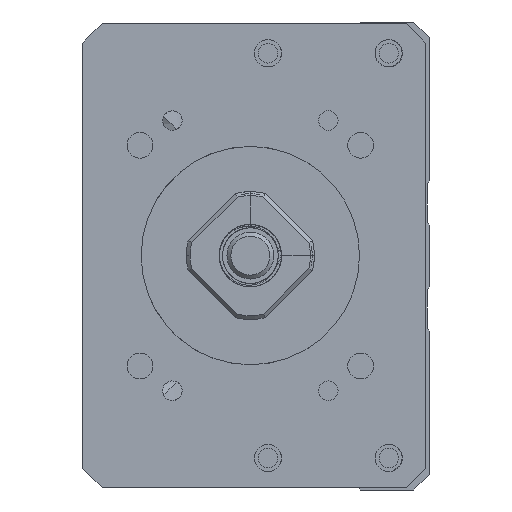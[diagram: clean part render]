
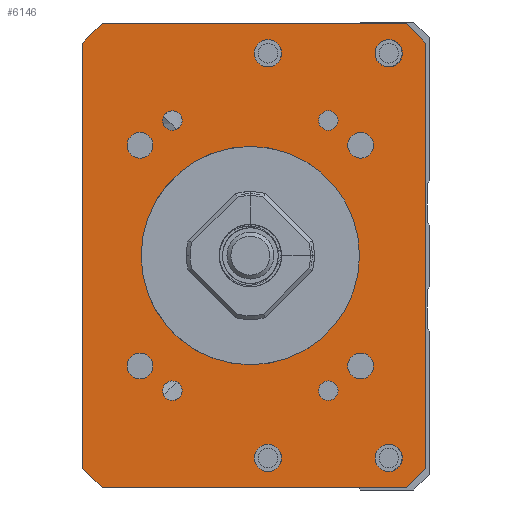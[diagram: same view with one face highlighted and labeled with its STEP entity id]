
A CAD part, left-side view. The second image highlights one B-rep face of the part: STEP entity #6146.
In plain terms, the highlighted planar face has unit normal (-1, 0, 0).
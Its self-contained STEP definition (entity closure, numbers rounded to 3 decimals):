
#3863=LINE('',#18590,#4678);
#3865=LINE('',#18614,#4680);
#3866=LINE('',#18616,#4681);
#3867=LINE('',#18618,#4682);
#3868=LINE('',#18620,#4683);
#3869=LINE('',#18622,#4684);
#3870=LINE('',#18624,#4685);
#3871=LINE('',#18626,#4686);
#4678=VECTOR('',#15570,1.);
#4680=VECTOR('',#15594,1.);
#4681=VECTOR('',#15595,1.);
#4682=VECTOR('',#15596,1.);
#4683=VECTOR('',#15597,1.);
#4684=VECTOR('',#15598,1.);
#4685=VECTOR('',#15599,1.);
#4686=VECTOR('',#15600,1.);
#5664=FACE_BOUND('',#7646,.T.);
#5665=FACE_BOUND('',#7647,.T.);
#5666=FACE_BOUND('',#7648,.T.);
#5667=FACE_BOUND('',#7649,.T.);
#5668=FACE_BOUND('',#7650,.T.);
#5669=FACE_BOUND('',#7651,.T.);
#5670=FACE_BOUND('',#7652,.T.);
#5671=FACE_BOUND('',#7653,.T.);
#5672=FACE_BOUND('',#7654,.T.);
#5673=FACE_BOUND('',#7655,.T.);
#5674=FACE_BOUND('',#7656,.T.);
#5675=FACE_BOUND('',#7657,.T.);
#5676=FACE_BOUND('',#7658,.T.);
#5677=FACE_BOUND('',#7659,.T.);
#6146=ADVANCED_FACE('',(#5664,#5665,#5666,#5667,#5668,#5669,#5670,#5671,
#5672,#5673,#5674,#5675,#5676,#5677),#6718,.F.);
#6718=PLANE('',#14172);
#7646=EDGE_LOOP('',(#8919));
#7647=EDGE_LOOP('',(#8920));
#7648=EDGE_LOOP('',(#8921));
#7649=EDGE_LOOP('',(#8922));
#7650=EDGE_LOOP('',(#8923));
#7651=EDGE_LOOP('',(#8924));
#7652=EDGE_LOOP('',(#8925));
#7653=EDGE_LOOP('',(#8926));
#7654=EDGE_LOOP('',(#8927));
#7655=EDGE_LOOP('',(#8928,#8929,#8930,#8931,#8932,#8933,#8934,#8935));
#7656=EDGE_LOOP('',(#8936));
#7657=EDGE_LOOP('',(#8937));
#7658=EDGE_LOOP('',(#8938));
#7659=EDGE_LOOP('',(#8939));
#8919=ORIENTED_EDGE('',*,*,#12435,.F.);
#8920=ORIENTED_EDGE('',*,*,#12436,.F.);
#8921=ORIENTED_EDGE('',*,*,#12437,.F.);
#8922=ORIENTED_EDGE('',*,*,#12438,.F.);
#8923=ORIENTED_EDGE('',*,*,#12439,.F.);
#8924=ORIENTED_EDGE('',*,*,#12440,.T.);
#8925=ORIENTED_EDGE('',*,*,#12441,.F.);
#8926=ORIENTED_EDGE('',*,*,#12442,.F.);
#8927=ORIENTED_EDGE('',*,*,#12443,.F.);
#8928=ORIENTED_EDGE('',*,*,#12432,.T.);
#8929=ORIENTED_EDGE('',*,*,#12444,.T.);
#8930=ORIENTED_EDGE('',*,*,#12445,.F.);
#8931=ORIENTED_EDGE('',*,*,#12446,.T.);
#8932=ORIENTED_EDGE('',*,*,#12447,.F.);
#8933=ORIENTED_EDGE('',*,*,#12448,.T.);
#8934=ORIENTED_EDGE('',*,*,#12449,.T.);
#8935=ORIENTED_EDGE('',*,*,#12450,.T.);
#8936=ORIENTED_EDGE('',*,*,#12451,.F.);
#8937=ORIENTED_EDGE('',*,*,#12452,.F.);
#8938=ORIENTED_EDGE('',*,*,#12453,.F.);
#8939=ORIENTED_EDGE('',*,*,#12412,.F.);
#11349=VERTEX_POINT('',#18529);
#11369=VERTEX_POINT('',#18589);
#11370=VERTEX_POINT('',#18591);
#11372=VERTEX_POINT('',#18597);
#11373=VERTEX_POINT('',#18599);
#11374=VERTEX_POINT('',#18601);
#11375=VERTEX_POINT('',#18603);
#11376=VERTEX_POINT('',#18605);
#11377=VERTEX_POINT('',#18607);
#11378=VERTEX_POINT('',#18609);
#11379=VERTEX_POINT('',#18611);
#11380=VERTEX_POINT('',#18613);
#11381=VERTEX_POINT('',#18615);
#11382=VERTEX_POINT('',#18617);
#11383=VERTEX_POINT('',#18619);
#11384=VERTEX_POINT('',#18621);
#11385=VERTEX_POINT('',#18623);
#11386=VERTEX_POINT('',#18625);
#11387=VERTEX_POINT('',#18628);
#11388=VERTEX_POINT('',#18630);
#11389=VERTEX_POINT('',#18632);
#12412=EDGE_CURVE('',#11349,#11349,#13639,.T.);
#12432=EDGE_CURVE('',#11370,#11369,#3863,.T.);
#12435=EDGE_CURVE('',#11372,#11372,#13648,.T.);
#12436=EDGE_CURVE('',#11373,#11373,#13649,.T.);
#12437=EDGE_CURVE('',#11374,#11374,#13650,.T.);
#12438=EDGE_CURVE('',#11375,#11375,#13651,.T.);
#12439=EDGE_CURVE('',#11376,#11376,#13652,.T.);
#12440=EDGE_CURVE('',#11377,#11377,#13653,.T.);
#12441=EDGE_CURVE('',#11378,#11378,#13654,.T.);
#12442=EDGE_CURVE('',#11379,#11379,#13655,.T.);
#12443=EDGE_CURVE('',#11380,#11380,#13656,.T.);
#12444=EDGE_CURVE('',#11369,#11381,#3865,.T.);
#12445=EDGE_CURVE('',#11382,#11381,#3866,.T.);
#12446=EDGE_CURVE('',#11382,#11383,#3867,.T.);
#12447=EDGE_CURVE('',#11384,#11383,#3868,.T.);
#12448=EDGE_CURVE('',#11384,#11385,#3869,.T.);
#12449=EDGE_CURVE('',#11385,#11386,#3870,.T.);
#12450=EDGE_CURVE('',#11386,#11370,#3871,.T.);
#12451=EDGE_CURVE('',#11387,#11387,#13657,.T.);
#12452=EDGE_CURVE('',#11388,#11388,#13658,.T.);
#12453=EDGE_CURVE('',#11389,#11389,#13659,.T.);
#13639=CIRCLE('',#14149,14.);
#13648=CIRCLE('',#14160,1.65);
#13649=CIRCLE('',#14161,1.65);
#13650=CIRCLE('',#14162,1.65);
#13651=CIRCLE('',#14163,1.65);
#13652=CIRCLE('',#14164,1.25);
#13653=CIRCLE('',#14165,1.75);
#13654=CIRCLE('',#14166,1.25);
#13655=CIRCLE('',#14167,1.75);
#13656=CIRCLE('',#14168,1.25);
#13657=CIRCLE('',#14169,1.75);
#13658=CIRCLE('',#14170,1.75);
#13659=CIRCLE('',#14171,1.25);
#14149=AXIS2_PLACEMENT_3D('',#18528,#15544,#15545);
#14160=AXIS2_PLACEMENT_3D('',#18596,#15576,#15577);
#14161=AXIS2_PLACEMENT_3D('',#18598,#15578,#15579);
#14162=AXIS2_PLACEMENT_3D('',#18600,#15580,#15581);
#14163=AXIS2_PLACEMENT_3D('',#18602,#15582,#15583);
#14164=AXIS2_PLACEMENT_3D('',#18604,#15584,#15585);
#14165=AXIS2_PLACEMENT_3D('',#18606,#15586,#15587);
#14166=AXIS2_PLACEMENT_3D('',#18608,#15588,#15589);
#14167=AXIS2_PLACEMENT_3D('',#18610,#15590,#15591);
#14168=AXIS2_PLACEMENT_3D('',#18612,#15592,#15593);
#14169=AXIS2_PLACEMENT_3D('',#18627,#15601,#15602);
#14170=AXIS2_PLACEMENT_3D('',#18629,#15603,#15604);
#14171=AXIS2_PLACEMENT_3D('',#18631,#15605,#15606);
#14172=AXIS2_PLACEMENT_3D('',#18633,#15607,#15608);
#15544=DIRECTION('',(-1.,0.,0.));
#15545=DIRECTION('',(0.,1.,0.));
#15570=DIRECTION('',(0.,0.,-1.));
#15576=DIRECTION('',(-1.,0.,0.));
#15577=DIRECTION('',(0.,0.,1.));
#15578=DIRECTION('',(-1.,0.,0.));
#15579=DIRECTION('',(0.,0.,1.));
#15580=DIRECTION('',(-1.,0.,0.));
#15581=DIRECTION('',(0.,0.,1.));
#15582=DIRECTION('',(-1.,0.,0.));
#15583=DIRECTION('',(0.,0.,1.));
#15584=DIRECTION('',(-1.,0.,0.));
#15585=DIRECTION('',(0.,1.,0.));
#15586=DIRECTION('',(1.,0.,0.));
#15587=DIRECTION('',(0.,0.,1.));
#15588=DIRECTION('',(-1.,0.,0.));
#15589=DIRECTION('',(0.,1.,0.));
#15590=DIRECTION('',(-1.,0.,0.));
#15591=DIRECTION('',(0.,0.,1.));
#15592=DIRECTION('',(-1.,0.,0.));
#15593=DIRECTION('',(0.,1.,0.));
#15594=DIRECTION('',(0.,-0.707,-0.707));
#15595=DIRECTION('',(0.,1.,0.));
#15596=DIRECTION('',(0.,-0.707,0.707));
#15597=DIRECTION('',(0.,0.,-1.));
#15598=DIRECTION('',(0.,0.707,0.707));
#15599=DIRECTION('',(0.,1.,0.));
#15600=DIRECTION('',(0.,0.707,-0.707));
#15601=DIRECTION('',(-1.,0.,0.));
#15602=DIRECTION('',(0.,0.,1.));
#15603=DIRECTION('',(-1.,0.,0.));
#15604=DIRECTION('',(0.,0.,1.));
#15605=DIRECTION('',(-1.,0.,0.));
#15606=DIRECTION('',(0.,1.,0.));
#15607=DIRECTION('',(1.,0.,0.));
#15608=DIRECTION('',(0.,1.,0.));
#18528=CARTESIAN_POINT('',(-211.,0.,-200.));
#18529=CARTESIAN_POINT('',(-211.,14.,-200.));
#18589=CARTESIAN_POINT('',(-211.,21.499,-227.25));
#18590=CARTESIAN_POINT('',(-211.,21.499,-170.25));
#18591=CARTESIAN_POINT('',(-211.,21.499,-172.75));
#18596=CARTESIAN_POINT('',(-211.,14.142,-185.858));
#18597=CARTESIAN_POINT('',(-211.,14.142,-184.208));
#18598=CARTESIAN_POINT('',(-211.,-14.142,-185.858));
#18599=CARTESIAN_POINT('',(-211.,-14.142,-184.208));
#18600=CARTESIAN_POINT('',(-211.,14.142,-214.142));
#18601=CARTESIAN_POINT('',(-211.,14.142,-212.492));
#18602=CARTESIAN_POINT('',(-211.,-14.142,-214.142));
#18603=CARTESIAN_POINT('',(-211.,-14.142,-212.492));
#18604=CARTESIAN_POINT('',(-211.,-10.,-217.321));
#18605=CARTESIAN_POINT('',(-211.,-8.75,-217.321));
#18606=CARTESIAN_POINT('',(-211.,-2.25,-225.936));
#18607=CARTESIAN_POINT('',(-211.,-2.25,-224.186));
#18608=CARTESIAN_POINT('',(-211.,10.,-182.679));
#18609=CARTESIAN_POINT('',(-211.,11.25,-182.679));
#18610=CARTESIAN_POINT('',(-211.,-2.25,-174.064));
#18611=CARTESIAN_POINT('',(-211.,-2.25,-172.314));
#18612=CARTESIAN_POINT('',(-211.,10.,-217.321));
#18613=CARTESIAN_POINT('',(-211.,11.25,-217.321));
#18614=CARTESIAN_POINT('',(-211.,18.999,-229.75));
#18615=CARTESIAN_POINT('',(-211.,18.999,-229.75));
#18616=CARTESIAN_POINT('',(-211.,-22.501,-229.75));
#18617=CARTESIAN_POINT('',(-211.,-20.001,-229.75));
#18618=CARTESIAN_POINT('',(-211.,-22.501,-227.25));
#18619=CARTESIAN_POINT('',(-211.,-22.501,-227.25));
#18620=CARTESIAN_POINT('',(-211.,-22.501,-170.25));
#18621=CARTESIAN_POINT('',(-211.,-22.501,-172.75));
#18622=CARTESIAN_POINT('',(-211.,-22.501,-172.75));
#18623=CARTESIAN_POINT('',(-211.,-20.001,-170.25));
#18624=CARTESIAN_POINT('',(-211.,-22.501,-170.25));
#18625=CARTESIAN_POINT('',(-211.,18.999,-170.25));
#18626=CARTESIAN_POINT('',(-211.,18.999,-170.25));
#18627=CARTESIAN_POINT('',(-211.,-17.75,-174.064));
#18628=CARTESIAN_POINT('',(-211.,-17.75,-172.314));
#18629=CARTESIAN_POINT('',(-211.,-17.75,-225.936));
#18630=CARTESIAN_POINT('',(-211.,-17.75,-224.186));
#18631=CARTESIAN_POINT('',(-211.,-10.,-182.679));
#18632=CARTESIAN_POINT('',(-211.,-8.75,-182.679));
#18633=CARTESIAN_POINT('',(-211.,-22.501,-170.25));
